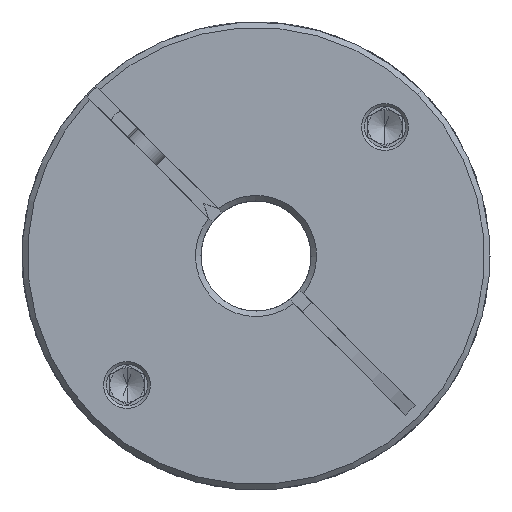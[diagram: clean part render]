
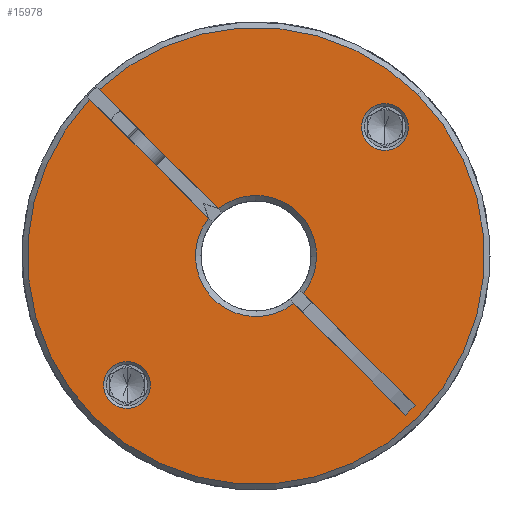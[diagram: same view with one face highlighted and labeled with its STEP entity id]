
A CAD part, front view. The second image highlights one B-rep face of the part: STEP entity #15978.
In plain terms, the highlighted planar face has unit normal (0, -1, 0).
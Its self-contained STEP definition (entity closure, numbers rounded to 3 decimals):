
#7 = ORIENTED_EDGE ( 'NONE', *, *, #1511, .T. ) ;
#300 = CARTESIAN_POINT ( 'NONE',  ( -2.735, -67.045, 68. ) ) ;
#392 = AXIS2_PLACEMENT_3D ( 'NONE', #1214, #17566, #21111 ) ;
#403 = DIRECTION ( 'NONE',  ( 0., -1., 0. ) ) ;
#474 = CIRCLE ( 'NONE', #11082, 3.4 ) ;
#749 = DIRECTION ( 'NONE',  ( 0., 1., 0. ) ) ;
#909 = EDGE_LOOP ( 'NONE', ( #6878, #15856, #15015, #8736, #7492, #17747, #12488, #11733, #15534, #13922, #16463 ) ) ;
#1096 = CIRCLE ( 'NONE', #392, 8.8 ) ;
#1115 = VERTEX_POINT ( 'NONE', #18213 ) ;
#1116 = EDGE_CURVE ( 'NONE', #11642, #10916, #6061, .T. ) ;
#1214 = CARTESIAN_POINT ( 'NONE',  ( -2.735, -67.045, 68. ) ) ;
#1323 = VERTEX_POINT ( 'NONE', #17320 ) ;
#1378 = DIRECTION ( 'NONE',  ( 0., 1., 0. ) ) ;
#1511 = EDGE_CURVE ( 'NONE', #14361, #3867, #18634, .T. ) ;
#1610 = DIRECTION ( 'NONE',  ( 0.707, 0., -0.707 ) ) ;
#1663 = CARTESIAN_POINT ( 'NONE',  ( -2.735, -67.045, 68. ) ) ;
#1685 = EDGE_CURVE ( 'NONE', #3867, #14361, #18869, .T. ) ;
#1781 = AXIS2_PLACEMENT_3D ( 'NONE', #300, #18706, #8688 ) ;
#1939 = DIRECTION ( 'NONE',  ( 0.707, 0., 0.707 ) ) ;
#2403 = DIRECTION ( 'NONE',  ( 0.707, 0., 0.707 ) ) ;
#2503 = CARTESIAN_POINT ( 'NONE',  ( 4.154, -67.045, 62.525 ) ) ;
#2529 = DIRECTION ( 'NONE',  ( 0.707, 0., 0.707 ) ) ;
#2598 = FACE_OUTER_BOUND ( 'NONE', #909, .T. ) ;
#2668 = EDGE_CURVE ( 'NONE', #1323, #10008, #20683, .T. ) ;
#3056 = LINE ( 'NONE', #11596, #6752 ) ;
#3237 = DIRECTION ( 'NONE',  ( 0., -1., 0. ) ) ;
#3265 = CARTESIAN_POINT ( 'NONE',  ( 13.599, -67.045, 84.334 ) ) ;
#3272 = CARTESIAN_POINT ( 'NONE',  ( 16.003, -67.045, 86.738 ) ) ;
#3385 = AXIS2_PLACEMENT_3D ( 'NONE', #3272, #16730, #21512 ) ;
#3597 = DIRECTION ( 'NONE',  ( 0., -1., 0. ) ) ;
#3750 = CARTESIAN_POINT ( 'NONE',  ( -2.735, -67.045, 68. ) ) ;
#3867 = VERTEX_POINT ( 'NONE', #3265 ) ;
#4055 = CIRCLE ( 'NONE', #1781, 8.8 ) ;
#4288 = DIRECTION ( 'NONE',  ( 0.707, 0., 0.707 ) ) ;
#4293 = CARTESIAN_POINT ( 'NONE',  ( -2.735, -67.045, 68. ) ) ;
#4423 = CARTESIAN_POINT ( 'NONE',  ( -26.211, -67.045, 44.524 ) ) ;
#4452 = CARTESIAN_POINT ( 'NONE',  ( -9.624, -67.045, 73.475 ) ) ;
#4505 = EDGE_CURVE ( 'NONE', #16606, #16121, #19813, .T. ) ;
#4509 = CARTESIAN_POINT ( 'NONE',  ( 20.741, -67.045, 91.476 ) ) ;
#4768 = CIRCLE ( 'NONE', #13297, 3.4 ) ;
#5497 = VERTEX_POINT ( 'NONE', #8814 ) ;
#5637 = CIRCLE ( 'NONE', #21275, 8.8 ) ;
#5958 = CARTESIAN_POINT ( 'NONE',  ( -21.473, -67.045, 49.262 ) ) ;
#6061 = CIRCLE ( 'NONE', #19308, 33.2 ) ;
#6219 = CARTESIAN_POINT ( 'NONE',  ( -8.21, -67.045, 74.889 ) ) ;
#6752 = VECTOR ( 'NONE', #1610, 1000. ) ;
#6878 = ORIENTED_EDGE ( 'NONE', *, *, #17253, .F. ) ;
#7282 = DIRECTION ( 'NONE',  ( 0.707, 0., 0.707 ) ) ;
#7303 = EDGE_CURVE ( 'NONE', #1115, #14574, #5637, .T. ) ;
#7492 = ORIENTED_EDGE ( 'NONE', *, *, #20426, .T. ) ;
#7810 = LINE ( 'NONE', #21170, #10171 ) ;
#7859 = DIRECTION ( 'NONE',  ( 0.707, 0., 0.707 ) ) ;
#8547 = LINE ( 'NONE', #13090, #14268 ) ;
#8688 = DIRECTION ( 'NONE',  ( 0.707, 0., 0.707 ) ) ;
#8736 = ORIENTED_EDGE ( 'NONE', *, *, #1116, .T. ) ;
#8743 = EDGE_LOOP ( 'NONE', ( #7, #13111 ) ) ;
#8814 = CARTESIAN_POINT ( 'NONE',  ( -23.878, -67.045, 46.858 ) ) ;
#8936 = VERTEX_POINT ( 'NONE', #4452 ) ;
#9096 = CARTESIAN_POINT ( 'NONE',  ( -2.735, -67.045, 68. ) ) ;
#9105 = DIRECTION ( 'NONE',  ( 0.707, 0., -0.707 ) ) ;
#9164 = VERTEX_POINT ( 'NONE', #12035 ) ;
#9244 = CARTESIAN_POINT ( 'NONE',  ( -3.442, -67.045, 67.293 ) ) ;
#9346 = EDGE_CURVE ( 'NONE', #13457, #5497, #4768, .T. ) ;
#9498 = AXIS2_PLACEMENT_3D ( 'NONE', #3750, #403, #13751 ) ;
#9566 = CARTESIAN_POINT ( 'NONE',  ( -19.069, -67.045, 51.666 ) ) ;
#9981 = CARTESIAN_POINT ( 'NONE',  ( 20.402, -67.045, 46.277 ) ) ;
#10008 = VERTEX_POINT ( 'NONE', #4423 ) ;
#10171 = VECTOR ( 'NONE', #12589, 1000. ) ;
#10916 = VERTEX_POINT ( 'NONE', #20802 ) ;
#11082 = AXIS2_PLACEMENT_3D ( 'NONE', #14586, #1378, #7859 ) ;
#11596 = CARTESIAN_POINT ( 'NONE',  ( -3.442, -67.045, 67.293 ) ) ;
#11642 = VERTEX_POINT ( 'NONE', #4509 ) ;
#11733 = ORIENTED_EDGE ( 'NONE', *, *, #18876, .T. ) ;
#11752 = AXIS2_PLACEMENT_3D ( 'NONE', #20998, #749, #2403 ) ;
#12035 = CARTESIAN_POINT ( 'NONE',  ( 2.74, -67.045, 61.111 ) ) ;
#12297 = PLANE ( 'NONE',  #17732 ) ;
#12422 = CARTESIAN_POINT ( 'NONE',  ( 18.988, -67.045, 44.862 ) ) ;
#12488 = ORIENTED_EDGE ( 'NONE', *, *, #7303, .T. ) ;
#12589 = DIRECTION ( 'NONE',  ( 0.707, 0., -0.707 ) ) ;
#12596 = CARTESIAN_POINT ( 'NONE',  ( 18.988, -67.045, 44.862 ) ) ;
#13019 = EDGE_LOOP ( 'NONE', ( #15979, #19357 ) ) ;
#13090 = CARTESIAN_POINT ( 'NONE',  ( -2.028, -67.045, 68.707 ) ) ;
#13111 = ORIENTED_EDGE ( 'NONE', *, *, #1685, .T. ) ;
#13297 = AXIS2_PLACEMENT_3D ( 'NONE', #5958, #19128, #4288 ) ;
#13457 = VERTEX_POINT ( 'NONE', #9566 ) ;
#13751 = DIRECTION ( 'NONE',  ( 0.707, 0., 0.707 ) ) ;
#13851 = FACE_BOUND ( 'NONE', #8743, .T. ) ;
#13854 = DIRECTION ( 'NONE',  ( 0., -1., 0. ) ) ;
#13922 = ORIENTED_EDGE ( 'NONE', *, *, #17404, .F. ) ;
#14038 = DIRECTION ( 'NONE',  ( -0.707, 0., -0.707 ) ) ;
#14268 = VECTOR ( 'NONE', #21232, 1000. ) ;
#14361 = VERTEX_POINT ( 'NONE', #19181 ) ;
#14574 = VERTEX_POINT ( 'NONE', #2503 ) ;
#14586 = CARTESIAN_POINT ( 'NONE',  ( -21.473, -67.045, 49.262 ) ) ;
#15015 = ORIENTED_EDGE ( 'NONE', *, *, #16612, .T. ) ;
#15132 = EDGE_CURVE ( 'NONE', #19802, #1115, #1096, .T. ) ;
#15368 = CARTESIAN_POINT ( 'NONE',  ( -2.735, -67.045, 68. ) ) ;
#15534 = ORIENTED_EDGE ( 'NONE', *, *, #4505, .T. ) ;
#15856 = ORIENTED_EDGE ( 'NONE', *, *, #2668, .T. ) ;
#15978 = ADVANCED_FACE ( 'NONE', ( #13851, #16731, #2598 ), #12297, .T. ) ;
#15979 = ORIENTED_EDGE ( 'NONE', *, *, #9346, .T. ) ;
#16121 = VERTEX_POINT ( 'NONE', #12596 ) ;
#16126 = LINE ( 'NONE', #9244, #17696 ) ;
#16463 = ORIENTED_EDGE ( 'NONE', *, *, #21090, .T. ) ;
#16606 = VERTEX_POINT ( 'NONE', #9981 ) ;
#16612 = EDGE_CURVE ( 'NONE', #10008, #11642, #17735, .T. ) ;
#16730 = DIRECTION ( 'NONE',  ( 0., 1., 0. ) ) ;
#16731 = FACE_BOUND ( 'NONE', #13019, .T. ) ;
#17253 = EDGE_CURVE ( 'NONE', #1323, #8936, #3056, .T. ) ;
#17320 = CARTESIAN_POINT ( 'NONE',  ( -26.908, -67.045, 90.758 ) ) ;
#17329 = AXIS2_PLACEMENT_3D ( 'NONE', #1663, #3237, #21419 ) ;
#17404 = EDGE_CURVE ( 'NONE', #9164, #16121, #16126, .T. ) ;
#17566 = DIRECTION ( 'NONE',  ( 0., 1., 0. ) ) ;
#17696 = VECTOR ( 'NONE', #9105, 1000. ) ;
#17732 = AXIS2_PLACEMENT_3D ( 'NONE', #9096, #13854, #7282 ) ;
#17735 = CIRCLE ( 'NONE', #17329, 33.2 ) ;
#17747 = ORIENTED_EDGE ( 'NONE', *, *, #15132, .T. ) ;
#17963 = VECTOR ( 'NONE', #14038, 1000. ) ;
#18213 = CARTESIAN_POINT ( 'NONE',  ( 3.487, -67.045, 74.223 ) ) ;
#18634 = CIRCLE ( 'NONE', #11752, 3.4 ) ;
#18706 = DIRECTION ( 'NONE',  ( 0., 1., 0. ) ) ;
#18869 = CIRCLE ( 'NONE', #3385, 3.4 ) ;
#18876 = EDGE_CURVE ( 'NONE', #14574, #16606, #7810, .T. ) ;
#19067 = DIRECTION ( 'NONE',  ( 0., 1., 0. ) ) ;
#19128 = DIRECTION ( 'NONE',  ( 0., 1., 0. ) ) ;
#19181 = CARTESIAN_POINT ( 'NONE',  ( 18.407, -67.045, 89.142 ) ) ;
#19308 = AXIS2_PLACEMENT_3D ( 'NONE', #15368, #3597, #1939 ) ;
#19357 = ORIENTED_EDGE ( 'NONE', *, *, #19432, .T. ) ;
#19432 = EDGE_CURVE ( 'NONE', #5497, #13457, #474, .T. ) ;
#19802 = VERTEX_POINT ( 'NONE', #6219 ) ;
#19813 = LINE ( 'NONE', #12422, #17963 ) ;
#20426 = EDGE_CURVE ( 'NONE', #10916, #19802, #8547, .T. ) ;
#20683 = CIRCLE ( 'NONE', #9498, 33.2 ) ;
#20802 = CARTESIAN_POINT ( 'NONE',  ( -25.493, -67.045, 92.172 ) ) ;
#20998 = CARTESIAN_POINT ( 'NONE',  ( 16.003, -67.045, 86.738 ) ) ;
#21090 = EDGE_CURVE ( 'NONE', #9164, #8936, #4055, .T. ) ;
#21111 = DIRECTION ( 'NONE',  ( 0.707, 0., 0.707 ) ) ;
#21170 = CARTESIAN_POINT ( 'NONE',  ( -2.028, -67.045, 68.707 ) ) ;
#21232 = DIRECTION ( 'NONE',  ( 0.707, 0., -0.707 ) ) ;
#21275 = AXIS2_PLACEMENT_3D ( 'NONE', #4293, #19067, #2529 ) ;
#21419 = DIRECTION ( 'NONE',  ( 0.707, 0., 0.707 ) ) ;
#21512 = DIRECTION ( 'NONE',  ( 0.707, 0., 0.707 ) ) ;
